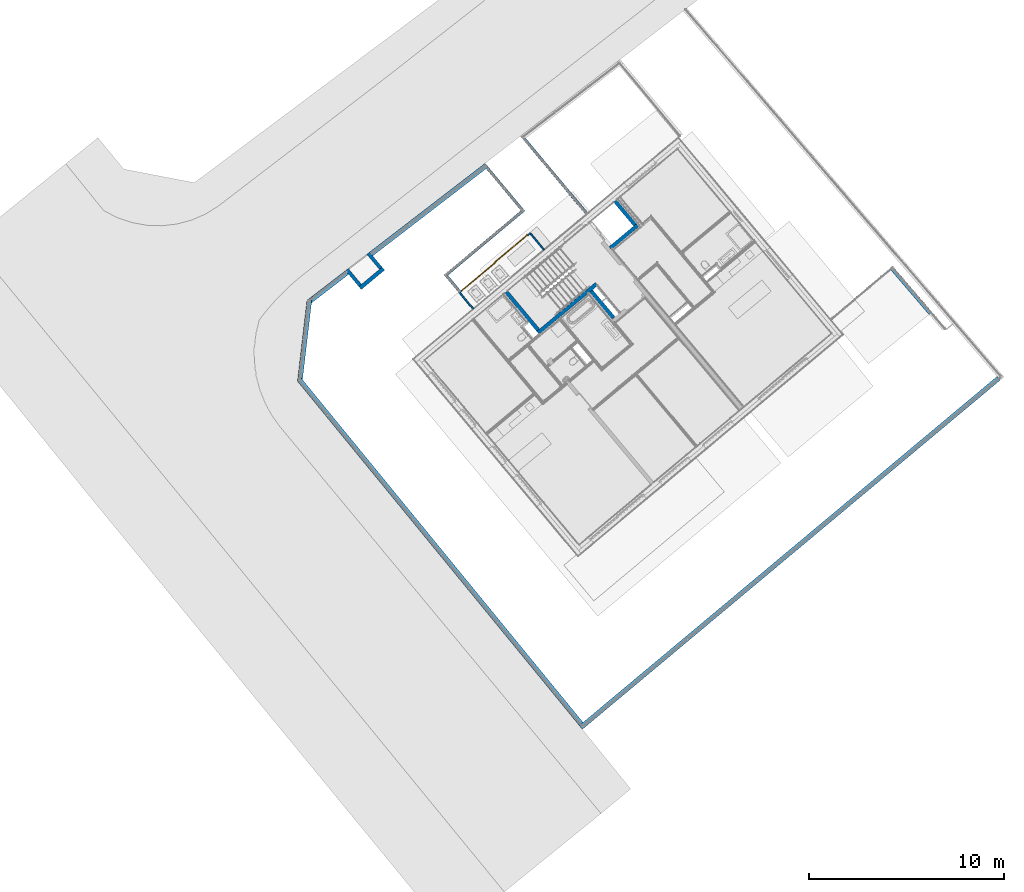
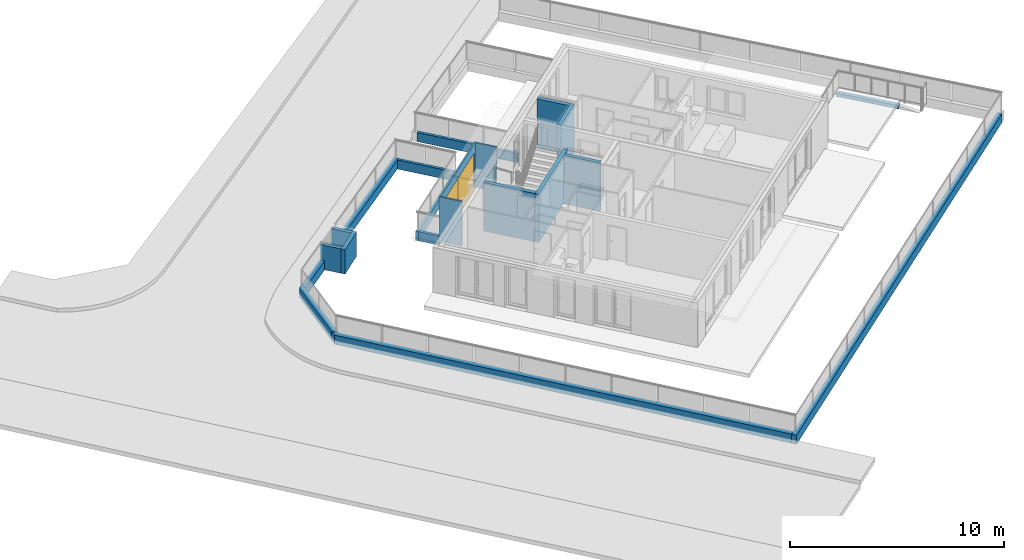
# One storey, part 10 of 75: 21 walls, 1 door, 1 opening.
"""IFC4 building model written with IfcOpenShell, lengths in metres."""

from ifc_helpers import new_model, entity, si_unit, converted_unit, derived_unit, direction, frame, origin_with_axes, place, context, subcontext, project, spatial, polygons, material, type_object, element, fill, save


model = new_model("IFC4")

# Units and contexts
model_context = context("Model", 3, precision=1e-05, world=origin_with_axes(), true_north=direction((0.0, 1.0)))
body_context = subcontext(model_context, "Body", "Model", "MODEL_VIEW")
ifc_project = project(units=[si_unit("LENGTHUNIT", "METRE"), si_unit("AREAUNIT", "SQUARE_METRE"), si_unit("VOLUMEUNIT", "CUBIC_METRE"), converted_unit("PLANEANGLEUNIT", "DEGREE", entity("IfcPlaneAngleMeasure", 0.0174532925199), si_unit("PLANEANGLEUNIT", "RADIAN"), dimensions=[0, 0, 0, 0, 0, 0, 0]), converted_unit("TIMEUNIT", "Year", entity("IfcTimeMeasure", 31556926.0), si_unit("TIMEUNIT", "SECOND"), dimensions=[0, 0, 1, 0, 0, 0, 0]), si_unit("MASSUNIT", "GRAM", prefix="KILO"), si_unit("THERMODYNAMICTEMPERATUREUNIT", "DEGREE_CELSIUS"), si_unit("LUMINOUSINTENSITYUNIT", "LUMEN"), si_unit("ENERGYUNIT", "JOULE", prefix="MEGA"), derived_unit("THERMALCONDUCTANCEUNIT", [(si_unit("POWERUNIT", "WATT"), 1), (si_unit("LENGTHUNIT", "METRE"), -1), (si_unit("THERMODYNAMICTEMPERATUREUNIT", "KELVIN"), -1)]), derived_unit("SPECIFICHEATCAPACITYUNIT", [(si_unit("ENERGYUNIT", "JOULE"), 1), (si_unit("MASSUNIT", "GRAM", prefix="KILO"), -1), (si_unit("THERMODYNAMICTEMPERATUREUNIT", "KELVIN"), -1)]), derived_unit("MASSDENSITYUNIT", [(si_unit("MASSUNIT", "GRAM", prefix="KILO"), 1), (si_unit("VOLUMEUNIT", "CUBIC_METRE"), -1)])], contexts=[model_context])

# Site, building, storey
site_placement = place(None, frame((-0.00153261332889, -0.00661245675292, 0.0), z_axis=(0.0, 0.0, 1.0), x_axis=(1.0, 0.0, 0.0)))
site = spatial("IfcSite", under=ifc_project, at=site_placement, Name="Gelände", CompositionType="ELEMENT")
building_placement = place(site_placement, origin_with_axes())
building = spatial("IfcBuilding", under=site, at=building_placement, Name="Gebäude", CompositionType="ELEMENT")
storey_placement = place(building_placement, frame((0.0, 0.0, -0.22), z_axis=(0.0, 0.0, 1.0), x_axis=(1.0, 0.0, 0.0)))
storey = spatial("IfcBuildingStorey", under=building, at=storey_placement, Name="EG", CompositionType="ELEMENT", Elevation=-0.22)

# Walls
ifc_material_1 = material(Name="Stahlbeton Wand")
wall_type_1 = type_object("IfcWallType", Name="Stahlbeton Wand 250", PredefinedType="NOTDEFINED")
wall_1_placement = place(storey_placement, frame((-14.1452322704, 22.0318984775, 0.0), z_axis=(0.0, 0.0, 1.0), x_axis=(0.792729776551, 0.609573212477, 0.0)))
element("IfcWall", 1, at=wall_1_placement, inside=storey, type_object=wall_type_1, material=ifc_material_1, Name="Wand-007", PredefinedType="NOTDEFINED", context=body_context, shape_type="Tessellation", body=[
    polygons([(2.69156692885, -0.25, 0.52), (2.68142353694, 0.0, 0.52), (0.348990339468, 0.0, 0.52), (0.105486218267, -0.25, 0.52), (2.69156692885, -0.25, 0.0), (2.68142353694, 0.0, 0.0), (0.348990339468, 0.0, 0.0), (0.105486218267, -0.25, 0.0)], [[[1, 2, 3, 4]], [[2, 1, 5, 6]], [[2, 6, 7, 3]], [[8, 4, 3, 7]], [[5, 1, 4, 8]], [[6, 5, 8, 7]]], closed=True),
])
wall_2_placement = place(storey_placement, frame((-14.6319901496, 17.8803365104, 0.0), z_axis=(0.0, 0.0, 1.0), x_axis=(0.116449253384, 0.993196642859, 0.0)))
element("IfcWall", 2, at=wall_2_placement, inside=storey, type_object=wall_type_1, material=ifc_material_1, Name="Wand-006", PredefinedType="NOTDEFINED", context=body_context, shape_type="Tessellation", body=[
    polygons([(4.42350412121, -0.25, 0.52), (4.18, 0.0, 0.52), (0.347570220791, 0.0, 0.52), (0.106105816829, -0.25, 0.52), (4.42350412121, -0.25, 0.0), (4.18, 0.0, 0.0), (0.347570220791, 0.0, 0.0), (0.106105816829, -0.25, 0.0)], [[[1, 2, 3, 4]], [[2, 1, 5, 6]], [[2, 6, 7, 3]], [[8, 4, 3, 7]], [[5, 1, 4, 8]], [[6, 5, 8, 7]]], closed=True),
])
wall_3_placement = place(storey_placement, frame((0.00153261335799, 0.00661245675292, 0.0), z_axis=(0.0, 0.0, 1.0), x_axis=(-0.633485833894, 0.773754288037, 0.0)))
element("IfcWall", 3, at=wall_3_placement, inside=storey, type_object=wall_type_1, material=ifc_material_1, Name="Wand-005", PredefinedType="NOTDEFINED", context=body_context, shape_type="Tessellation", body=[
    polygons([(23.3414644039, -0.25, 0.52), (23.0999999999, 0.0, 0.52), (0.250012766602, 0.0, 0.52), (0.252539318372, -0.25, 0.52), (23.3414644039, -0.25, 0.0), (23.0999999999, 0.0, 0.0), (0.250012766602, 0.0, 0.0), (0.252539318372, -0.25, 0.0)], [[[1, 2, 3, 4]], [[2, 1, 5, 6]], [[2, 6, 7, 3]], [[8, 4, 3, 7]], [[5, 1, 4, 8]], [[6, 5, 8, 7]]], closed=True),
])
wall_4_placement = place(storey_placement, frame((21.647771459, 18.0972025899, 0.0), z_axis=(0.0, 0.0, 1.0), x_axis=(-0.767312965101, -0.64127280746, 0.0)))
element("IfcWall", 4, at=wall_4_placement, inside=storey, type_object=wall_type_1, material=ifc_material_1, Name="Wand-004", PredefinedType="NOTDEFINED", context=body_context, shape_type="Tessellation", body=[
    polygons([(28.2079166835, -0.25, 0.52), (28.2104432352, 0.0, 0.52), (0.250023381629, 0.0, 0.52), (0.253442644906, -0.25, 0.52), (28.2079166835, -0.25, 0.0), (28.2104432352, 0.0, 0.0), (0.250023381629, 0.0, 0.0), (0.253442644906, -0.25, 0.0)], [[[1, 2, 3, 4]], [[2, 1, 5, 6]], [[2, 6, 7, 3]], [[8, 4, 3, 7]], [[5, 1, 4, 8]], [[6, 5, 8, 7]]], closed=True),
])
wall_5_placement = place(storey_placement, frame((-10.9252750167, 24.5078994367, 0.0), z_axis=(0.0, 0.0, 1.0), x_axis=(0.792729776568, 0.609573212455, 0.0)))
element("IfcWall", 5, at=wall_5_placement, inside=storey, type_object=wall_type_1, material=ifc_material_1, Name="Wand-008", PredefinedType="NOTDEFINED", context=body_context, shape_type="Tessellation", body=[
    polygons([(7.49776738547, -0.25, 0.52), (7.48762399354, 0.0, 0.52), (0.0, 0.0, 0.52), (0.0, -0.25, 0.52), (7.49776738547, -0.25, 0.0), (7.48762399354, 0.0, 0.0), (0.0, 0.0, 0.0), (0.0, -0.25, 0.0)], [[[1, 2, 3, 4]], [[2, 1, 5, 6]], [[2, 6, 7, 3]], [[8, 4, 3, 7]], [[5, 1, 4, 8]], [[6, 5, 8, 7]]], closed=True),
])
wall_type_2 = type_object("IfcWallType", Name="Stahlbeton Wand 200", PredefinedType="NOTDEFINED")
wall_6_placement = place(storey_placement, frame((0.665404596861, 22.952518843, 0.0), z_axis=(0.0, 0.0, 1.0), x_axis=(-0.767365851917, -0.641209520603, 0.0)))
element("IfcWall", 6, at=wall_6_placement, inside=storey, type_object=wall_type_2, material=ifc_material_1, Name="Wand-003", PredefinedType="NOTDEFINED", context=body_context, shape_type="Tessellation", body=[
    polygons([(3.92113772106, 0.2, 0.0), (3.92113772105, 0.0, 0.0), (0.0, 0.0, 0.0), (0.0, 0.2, 0.0), (3.92113772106, 0.2, 2.76), (3.92113772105, 0.0, 2.76), (0.0, 0.0, 2.76), (0.0, 0.2, 2.76)], [[[1, 2, 3, 4]], [[2, 1, 5, 6]], [[2, 6, 7, 3]], [[8, 4, 3, 7]], [[5, 1, 4, 8]], [[6, 5, 8, 7]]], closed=True),
])
wall_7_placement = place(storey_placement, frame((-2.19006942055, 20.5664899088, 0.0), z_axis=(0.0, 0.0, 1.0), x_axis=(-0.641209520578, 0.767365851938, 0.0)))
element("IfcWall", 7, at=wall_7_placement, inside=storey, type_object=wall_type_2, material=ifc_material_1, Name="Wand-003", PredefinedType="NOTDEFINED", context=body_context, shape_type="Tessellation", body=[
    polygons([(2.56037085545, 0.2, 0.0), (2.56037085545, 0.0, 0.0), (0.0, 0.0, 0.0), (0.0, 0.2, 0.0), (2.56037085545, 0.2, 2.76), (2.56037085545, 0.0, 2.76), (0.0, 0.0, 2.76), (0.0, 0.2, 2.76)], [[[1, 2, 3, 4]], [[2, 1, 5, 6]], [[2, 6, 7, 3]], [[8, 4, 3, 7]], [[5, 1, 4, 8]], [[6, 5, 8, 7]]], closed=True),
])
wall_8_placement = place(storey_placement, frame((1.65427756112, 20.9103763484, 0.0), z_axis=(0.0, 0.0, 1.0), x_axis=(-0.641209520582, 0.767365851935, 0.0)))
element("IfcWall", 8, at=wall_8_placement, inside=storey, type_object=wall_type_2, material=ifc_material_1, Name="Wand-003", PredefinedType="NOTDEFINED", context=body_context, shape_type="Tessellation", body=[
    polygons([(0.199905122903, -0.2, 2.76), (2.00114517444, -0.2, 2.76), (2.00114517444, 0.0, 2.76), (0.200000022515, 0.0, 2.76), (0.199905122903, -0.2, 0.0), (2.00114517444, -0.2, 0.0), (2.00114517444, 0.0, 0.0), (0.200000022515, 0.0, 0.0)], [[[1, 2, 3, 4]], [[5, 6, 2, 1]], [[7, 3, 2, 6]], [[4, 3, 7, 8]], [[8, 5, 1, 4]], [[8, 7, 6, 5]]], closed=True),
])
wall_9_placement = place(storey_placement, frame((1.36278827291, 24.785276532, 0.0), z_axis=(0.0, 0.0, 1.0), x_axis=(0.767365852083, 0.641209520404, 0.0)))
element("IfcWall", 9, at=wall_9_placement, inside=storey, type_object=wall_type_2, material=ifc_material_1, Name="Wand-003", PredefinedType="NOTDEFINED", context=body_context, shape_type="Tessellation", body=[
    polygons([(1.85049975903, -0.2, 2.76), (1.85049975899, 0.0, 2.76), (0.0, 0.0, 2.76), (-9.48995889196e-05, -0.2, 2.76), (1.85049975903, -0.2, 0.0), (1.85049975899, 0.0, 0.0), (0.0, 0.0, 0.0), (-9.48995889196e-05, -0.2, 0.0)], [[[1, 2, 3, 4]], [[2, 1, 5, 6]], [[2, 6, 7, 3]], [[8, 4, 3, 7]], [[5, 1, 4, 8]], [[6, 5, 8, 7]]], closed=True),
])
wall_10_placement = place(storey_placement, frame((2.62932542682, 25.8435926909, 0.0), z_axis=(0.0, 0.0, 1.0), x_axis=(-0.641209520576, 0.767365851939, 0.0)))
element("IfcWall", 10, at=wall_10_placement, inside=storey, type_object=wall_type_2, material=ifc_material_1, Name="Wand-003", PredefinedType="NOTDEFINED", context=body_context, shape_type="Tessellation", body=[
    polygons([(1.60114424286, -0.2, 2.76), (1.60114424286, 0.0, 2.76), (0.0, 0.0, 2.76), (0.0, -0.2, 2.76), (1.60114424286, -0.2, 0.0), (1.60114424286, 0.0, 0.0), (0.0, 0.0, 0.0), (0.0, -0.2, 0.0)], [[[1, 2, 3, 4]], [[2, 1, 5, 6]], [[2, 6, 7, 3]], [[8, 4, 3, 7]], [[5, 1, 4, 8]], [[6, 5, 8, 7]]], closed=True),
])
wall_11_placement = place(storey_placement, frame((15.9414206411, 23.7793304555, 0.0), z_axis=(0.0, 0.0, 1.0), x_axis=(0.650364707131, -0.759622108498, 0.0)))
element("IfcWall", 11, at=wall_11_placement, inside=storey, type_object=wall_type_2, material=ifc_material_1, Name="Wand-006", PredefinedType="NOTDEFINED", context=body_context, shape_type="Tessellation", body=[
    polygons([(0.0, -0.2, 0.2), (3.0977093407, -0.2, 0.2), (3.09736060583, 0.0, 0.2), (0.0, 0.0, 0.2), (0.0, -0.2, 0.0), (3.0977093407, -0.2, 0.0), (3.09736060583, 0.0, 0.0), (0.0, 0.0, 0.0)], [[[1, 2, 3, 4]], [[5, 6, 2, 1]], [[6, 7, 3, 2]], [[4, 3, 7, 8]], [[8, 5, 1, 4]], [[8, 7, 6, 5]]], closed=True),
])
wall_12_placement = place(storey_placement, frame((-11.3406081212, 22.8538550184, 0.0), z_axis=(0.0, 0.0, 1.0), x_axis=(0.767365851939, 0.641209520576, 0.0)))
element("IfcWall", 12, at=wall_12_placement, inside=storey, type_object=wall_type_2, material=ifc_material_1, Name="Wand-010", PredefinedType="NOTDEFINED", context=body_context, shape_type="Tessellation", body=[
    polygons([(1.37897978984, -0.2, 1.4), (1.3790332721, 0.0, 1.4), (-0.18, 0.0, 1.4), (-0.180000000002, -0.2, 1.4), (1.37897978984, -0.2, 0.0), (1.3790332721, 0.0, 0.0), (-0.18, 0.0, 0.0), (-0.180000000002, -0.2, 0.0)], [[[1, 2, 3, 4]], [[2, 1, 5, 6]], [[2, 6, 7, 3]], [[8, 4, 3, 7]], [[5, 1, 4, 8]], [[6, 5, 8, 7]]], closed=True),
])
wall_type_3 = type_object("IfcWallType", Name="Stahlbeton Wand 150", PredefinedType="NOTDEFINED")
wall_13_placement = place(storey_placement, frame((-3.15465317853, 26.6422386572, 0.0), z_axis=(0.0, 0.0, 1.0), x_axis=(-0.641209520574, 0.767365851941, 0.0)))
element("IfcWall", 13, at=wall_13_placement, inside=storey, type_object=wall_type_3, material=ifc_material_1, Name="Wand-008", PredefinedType="NOTDEFINED", context=body_context, shape_type="Tessellation", body=[
    polygons([(2.79102210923, -0.15, 0.52), (2.79710814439, 0.0, 0.52), (-0.150000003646, 0.0, 0.52), (-0.150033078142, -0.15, 0.52), (2.79102210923, -0.15, 0.0), (2.79710814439, 0.0, 0.0), (-0.150000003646, 0.0, 0.0), (-0.150033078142, -0.15, 0.0)], [[[1, 2, 3, 4]], [[2, 1, 5, 6]], [[2, 6, 7, 3]], [[8, 4, 3, 7]], [[5, 1, 4, 8]], [[6, 5, 8, 7]]], closed=True),
])
wall_14_placement = place(storey_placement, frame((-3.15465317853, 26.6422386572, 0.0), z_axis=(0.0, 0.0, 1.0), x_axis=(-0.767507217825, -0.641040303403, 0.0)))
element("IfcWall", 14, at=wall_14_placement, inside=storey, type_object=wall_type_3, material=ifc_material_1, Name="Wand-009", PredefinedType="NOTDEFINED", context=body_context, shape_type="Tessellation", body=[
    polygons([(-3.30744951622e-05, 0.15, 0.0), (5.15667008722, 0.15, 0.0), (5.15667008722, 0.0, 0.0), (0.0, 0.0, 0.0), (-3.30744951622e-05, 0.15, 0.52), (5.15667008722, 0.15, 0.52), (5.15667008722, 0.0, 0.52), (0.0, 0.0, 0.52)], [[[1, 2, 3, 4]], [[5, 6, 2, 1]], [[3, 2, 6, 7]], [[4, 3, 7, 8]], [[5, 1, 4, 8]], [[8, 7, 6, 5]]], closed=True),
])
wall_15_placement = place(storey_placement, frame((-7.01627864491, 23.2214792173, 0.0), z_axis=(0.0, 0.0, 1.0), x_axis=(0.641234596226, -0.767344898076, 0.0)))
element("IfcWall", 15, at=wall_15_placement, inside=storey, type_object=wall_type_3, material=ifc_material_1, Name="Wand-010", PredefinedType="NOTDEFINED", context=body_context, shape_type="Tessellation", body=[
    polygons([(1.01213200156, 0.15, 0.0), (1.01213200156, 0.0, 0.0), (0.0, 0.0, 0.0), (0.0, 0.15, 0.0), (1.01213200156, 0.15, 0.52), (1.01213200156, 0.0, 0.52), (0.0, 0.0, 0.52), (0.0, 0.15, 0.52)], [[[1, 2, 3, 4]], [[1, 5, 6, 2]], [[2, 6, 7, 3]], [[4, 3, 7, 8]], [[5, 1, 4, 8]], [[6, 5, 8, 7]]], closed=True),
])
wall_16_placement = place(storey_placement, frame((-3.18795489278, 30.4575473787, 0.0), z_axis=(0.0, 0.0, 1.0), x_axis=(0.641093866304, -0.767462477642, 0.0)))
element("IfcWall", 16, at=wall_16_placement, inside=storey, type_object=wall_type_3, material=ifc_material_1, Name="Wand-011", PredefinedType="NOTDEFINED", context=body_context, shape_type="Tessellation", body=[
    polygons([(0.25626755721, 0.15, 0.0), (5.25452000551, 0.15, 0.0), (5.25452000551, 0.0, 0.0), (0.250204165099, 0.0, 0.0), (0.25626755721, 0.15, 0.52), (5.25452000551, 0.15, 0.52), (5.25452000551, 0.0, 0.52), (0.250204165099, 0.0, 0.52)], [[[1, 2, 3, 4]], [[5, 6, 2, 1]], [[3, 2, 6, 7]], [[4, 3, 7, 8]], [[5, 1, 4, 8]], [[8, 7, 6, 5]]], closed=True),
])
wall_type_4 = type_object("IfcWallType", Name="Stahlbeton Wand 180", PredefinedType="NOTDEFINED")
wall_17_placement = place(storey_placement, frame((-12.0195879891, 23.6664224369, 0.0), z_axis=(0.0, 0.0, 1.0), x_axis=(0.64120952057, -0.767365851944, 0.0)))
element("IfcWall", 17, at=wall_17_placement, inside=storey, type_object=wall_type_4, material=ifc_material_1, Name="Wand-009", PredefinedType="NOTDEFINED", context=body_context, shape_type="Tessellation", body=[
    polygons([(0.250205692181, 0.0, 0.0), (0.250205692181, 0.0, 0.52), (0.0, 0.0, 0.52), (0.0, 0.0, 1.4), (1.05890484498, 0.0, 1.4), (1.05890484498, 0.0, 0.0), (0.24290245, -0.18, 0.52), (0.24290245, -0.18, 0.0), (0.0, -0.18, 0.52), (0.0, -0.18, 1.4), (1.05890484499, -0.18, 1.4), (1.05890484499, -0.18, 0.0)], [[[1, 2, 3, 4, 5, 6]], [[7, 2, 1, 8]], [[9, 3, 2, 7]], [[4, 3, 9, 10]], [[11, 5, 4, 10]], [[12, 6, 5, 11]], [[12, 8, 1, 6]], [[9, 7, 8, 12, 11, 10]]], closed=True),
])
wall_18_placement = place(storey_placement, frame((-10.4205109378, 23.6226865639, 0.0), z_axis=(0.0, 0.0, 1.0), x_axis=(-0.641004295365, 0.767537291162, 0.0)))
element("IfcWall", 18, at=wall_18_placement, inside=storey, type_object=wall_type_4, material=ifc_material_1, Name="Wand-011", PredefinedType="NOTDEFINED", context=body_context, shape_type="Tessellation", body=[
    polygons([(4.81340322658e-05, -0.18, 1.4), (1.00298983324, -0.18, 1.4), (1.00298983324, 0.0, 1.4), (0.0, 0.0, 1.4), (4.81340322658e-05, -0.18, 0.0), (1.00298983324, -0.18, 0.0), (1.00298983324, 0.0, 0.0), (0.0, 0.0, 0.0)], [[[1, 2, 3, 4]], [[5, 6, 2, 1]], [[3, 2, 6, 7]], [[4, 3, 7, 8]], [[5, 1, 4, 8]], [[8, 7, 6, 5]]], closed=True),
])
ifc_material_2 = material(Name="Aluminium")
wall_type_5 = type_object("IfcWallType", Name="Aluminium 80", PredefinedType="NOTDEFINED")
wall_19_placement = place(storey_placement, frame((-5.63342813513, 21.5666079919, 0.22), z_axis=(0.0, 0.0, 1.0), x_axis=(-0.641209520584, 0.767365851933, 0.0)))
element("IfcWall", 19, at=wall_19_placement, inside=storey, type_object=wall_type_5, material=ifc_material_2, Name="Wand-008", PredefinedType="NOTDEFINED", context=body_context, shape_type="Tessellation", body=[
    polygons([(0.0, -0.08, 0.0), (1.14445657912, -0.08, 0.0), (1.14445657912, -0.08, 0.3), (1.14445657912, -0.08, 2.54), (0.0, -0.08, 2.54), (0.0, 0.0, 0.0), (1.14445657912, 0.0, 0.0), (1.14445657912, 0.0, 0.3), (1.14445657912, 0.0, 2.54), (0.0, 0.0, 2.54)], [[[1, 2, 3, 4, 5]], [[1, 6, 7, 2]], [[2, 7, 8, 3]], [[3, 8, 9, 4]], [[10, 5, 4, 9]], [[6, 1, 5, 10]], [[6, 10, 9, 8, 7]]], closed=True),
])

# Wall, opening, door
wall_20_placement = place(storey_placement, frame((-6.36726458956, 22.4448248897, 0.22), z_axis=(0.0, 0.0, 1.0), x_axis=(0.767365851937, 0.641209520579, 0.0)))
wall_20 = element("IfcWall", 20, at=wall_20_placement, inside=storey, type_object=wall_type_5, material=ifc_material_2, Name="Wand-008", PredefinedType="NOTDEFINED", context=body_context, shape_type="Tessellation", body=[
    polygons([(0.190017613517, -0.08, 0.0), (0.190017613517, -0.08, 2.04), (4.6310176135, -0.08, 2.04), (4.6310176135, -0.08, 0.0), (4.81101761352, -0.08, 0.0), (4.81101761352, -0.08, 2.54), (0.0800000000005, -0.08, 2.54), (0.0800000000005, -0.08, 0.0), (0.190017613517, 0.0, 0.0), (0.190017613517, 0.0, 2.04), (4.6310176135, 0.0, 2.04), (4.6310176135, 0.0, 0.0), (4.81101761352, 0.0, 0.0), (4.81101761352, 0.0, 2.54), (0.08, 0.0, 2.54), (0.08, 0.0, 0.3), (0.08, 0.0, 0.0)], [[[1, 2, 3, 4, 5, 6, 7, 8]], [[2, 1, 9, 10]], [[3, 2, 10, 11]], [[4, 3, 11, 12]], [[4, 12, 13, 5]], [[14, 6, 5, 13]], [[15, 7, 6, 14]], [[15, 16, 17, 8, 7]], [[9, 1, 8, 17]], [[10, 9, 17, 16, 15, 14, 13, 12, 11]]], closed=True),
])
opening_placement = place(wall_20_placement, frame((2.41051761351, 0.0, -0.22), z_axis=(0.0, 0.0, 1.0), x_axis=(1.0, 0.0, 0.0)))
opening = element("IfcOpeningElement", 21, at=opening_placement, cuts=wall_20, Name="Tür-001", context=body_context, identifier="Reference", shape_type="Tessellation", body=[
    polygons([(-2.22049999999, -2.44822412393, 2.26), (-2.22049999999, -2.44822412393, 0.0), (2.22049999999, -2.44822412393, 0.0), (2.22049999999, -2.44822412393, 2.26), (-2.22049999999, 2.36822412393, 2.26), (-2.22049999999, 2.36822412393, 0.0), (2.22049999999, 2.36822412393, 0.0), (2.22049999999, 2.36822412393, 2.26)], [[[1, 2, 3, 4]], [[5, 6, 2, 1]], [[6, 7, 3, 2]], [[7, 8, 4, 3]], [[8, 5, 1, 4]], [[7, 6, 5, 8]]], closed=True),
])
door_type = type_object("IfcDoorType", Name="Ladentür 1-Fl 26", OperationType="SINGLE_SWING_RIGHT", PredefinedType="NOTDEFINED")
door_placement = place(opening_placement, frame((2.22049999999, 0.0, 0.0), z_axis=(0.0, 0.0, 1.0), x_axis=(-1.0, 0.0, 0.0)))
door = element("IfcDoor", 22, at=door_placement, inside=storey, type_object=door_type, Name="Tür-001", OverallHeight=2.26, OverallWidth=4.441, PredefinedType="NOTDEFINED", context=body_context, shape_type="Tessellation", body=[
    polygons([(0.037, 0.045, 1.08598076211), (0.0360621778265, 0.04675, 1.08901185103), (0.0360621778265, 0.03, 1.0935), (0.037, 0.03, 1.09), (0.037, 0.0559807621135, 1.075), (0.0360621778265, 0.0590118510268, 1.07675), (0.0335, 0.0480310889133, 1.09123076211), (0.0335, 0.03, 1.09606217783), (0.03, 0.03, 1.097), (0.0265, 0.03, 1.09606217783), (0.0239378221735, 0.03, 1.0935), (0.023, 0.03, 1.09), (0.0239378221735, 0.03, 1.0865), (0.0265, 0.03, 1.08393782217), (0.03, 0.03, 1.083), (0.0335, 0.03, 1.08393782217), (0.0360621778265, 0.03, 1.0865), (0.0360621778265, 0.04325, 1.0829496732), (0.037, 0.06, 1.06), (0.0360621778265, 0.0635, 1.06), (0.0335, 0.0612307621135, 1.07803108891), (0.0360621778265, 0.0529496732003, 1.07325), (0.03, 0.0485, 1.09204293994), (0.0265, 0.0480310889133, 1.09123076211), (0.0239378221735, 0.04675, 1.08901185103), (0.023, 0.045, 1.08598076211), (0.0239378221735, 0.04325, 1.0829496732), (0.0265, 0.0419689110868, 1.08073076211), (0.03, 0.0415, 1.07991858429), (0.0335, 0.0419689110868, 1.08073076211), (0.0360621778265, 0.0565, 1.06), (0.0335, 0.0539378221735, 1.06), (0.03, 0.053, 1.06), (0.0265, 0.0539378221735, 1.06), (0.0239378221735, 0.0565, 1.06), (0.023, 0.06, 1.06), (0.0239378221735, 0.0635, 1.06), (0.0265, 0.0660621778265, 1.06), (0.03, 0.067, 1.06), (0.0335, 0.0660621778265, 1.06), (0.03, 0.06204293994, 1.0785), (0.0335, 0.0507307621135, 1.07196891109), (0.0265, 0.0612307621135, 1.07803108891), (0.0239378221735, 0.0590118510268, 1.07675), (0.023, 0.0559807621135, 1.075), (0.0239378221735, 0.0529496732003, 1.07325), (0.0265, 0.0507307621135, 1.07196891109), (0.03, 0.049918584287, 1.0715)], [[[1, 2, 3, 4]], [[5, 6, 2, 1]], [[2, 7, 8, 3]], [[4, 3, 8, 9, 10, 11, 12, 13, 14, 15, 16, 17]], [[18, 1, 4, 17]], [[19, 20, 6, 5]], [[6, 21, 7, 2]], [[22, 5, 1, 18]], [[7, 23, 9, 8]], [[23, 24, 10, 9]], [[24, 25, 11, 10]], [[25, 26, 12, 11]], [[26, 27, 13, 12]], [[27, 28, 14, 13]], [[28, 29, 15, 14]], [[29, 30, 16, 15]], [[30, 18, 17, 16]], [[19, 31, 32, 33, 34, 35, 36, 37, 38, 39, 40, 20]], [[20, 40, 21, 6]], [[31, 19, 5, 22]], [[21, 41, 23, 7]], [[42, 22, 18, 30]], [[41, 43, 24, 23]], [[43, 44, 25, 24]], [[44, 45, 26, 25]], [[45, 46, 27, 26]], [[46, 47, 28, 27]], [[47, 48, 29, 28]], [[48, 42, 30, 29]], [[32, 31, 22, 42]], [[33, 32, 42, 48]], [[34, 33, 48, 47]], [[35, 34, 47, 46]], [[36, 35, 46, 45]], [[37, 36, 45, 44]], [[38, 37, 44, 43]], [[39, 38, 43, 41]], [[40, 39, 41, 21]]], closed=True),
    polygons([(0.023, 0.045, 1.01401923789), (0.0239378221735, 0.04675, 1.01098814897), (0.0239378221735, 0.03, 1.0065), (0.023, 0.03, 1.01), (0.023, 0.0559807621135, 1.025), (0.0239378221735, 0.0590118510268, 1.02325), (0.0265, 0.0480310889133, 1.00876923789), (0.0265, 0.03, 1.00393782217), (0.03, 0.03, 1.003), (0.0335, 0.03, 1.00393782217), (0.0360621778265, 0.03, 1.0065), (0.037, 0.03, 1.01), (0.0360621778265, 0.03, 1.0135), (0.0335, 0.03, 1.01606217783), (0.03, 0.03, 1.017), (0.0265, 0.03, 1.01606217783), (0.0239378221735, 0.03, 1.0135), (0.0239378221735, 0.04325, 1.0170503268), (0.023, 0.06, 1.04), (0.0239378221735, 0.0635, 1.04), (0.0265, 0.0612307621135, 1.02196891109), (0.0239378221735, 0.0529496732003, 1.02675), (0.03, 0.0485, 1.00795706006), (0.0335, 0.0480310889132, 1.00876923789), (0.0360621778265, 0.04675, 1.01098814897), (0.037, 0.045, 1.01401923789), (0.0360621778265, 0.04325, 1.0170503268), (0.0335, 0.0419689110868, 1.01926923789), (0.03, 0.0415, 1.02008141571), (0.0265, 0.0419689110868, 1.01926923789), (0.0239378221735, 0.0565, 1.04), (0.0265, 0.0539378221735, 1.04), (0.03, 0.053, 1.04), (0.0335, 0.0539378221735, 1.04), (0.0360621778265, 0.0565, 1.04), (0.037, 0.06, 1.04), (0.0360621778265, 0.0635, 1.04), (0.0335, 0.0660621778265, 1.04), (0.03, 0.067, 1.04), (0.0265, 0.0660621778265, 1.04), (0.03, 0.06204293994, 1.0215), (0.0265, 0.0507307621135, 1.02803108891), (0.0335, 0.0612307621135, 1.02196891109), (0.0360621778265, 0.0590118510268, 1.02325), (0.037, 0.0559807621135, 1.025), (0.0360621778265, 0.0529496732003, 1.02675), (0.0335, 0.0507307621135, 1.02803108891), (0.03, 0.049918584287, 1.0285)], [[[1, 2, 3, 4]], [[5, 6, 2, 1]], [[2, 7, 8, 3]], [[4, 3, 8, 9, 10, 11, 12, 13, 14, 15, 16, 17]], [[18, 1, 4, 17]], [[19, 20, 6, 5]], [[6, 21, 7, 2]], [[22, 5, 1, 18]], [[7, 23, 9, 8]], [[23, 24, 10, 9]], [[24, 25, 11, 10]], [[25, 26, 12, 11]], [[26, 27, 13, 12]], [[27, 28, 14, 13]], [[28, 29, 15, 14]], [[29, 30, 16, 15]], [[30, 18, 17, 16]], [[19, 31, 32, 33, 34, 35, 36, 37, 38, 39, 40, 20]], [[20, 40, 21, 6]], [[31, 19, 5, 22]], [[21, 41, 23, 7]], [[42, 22, 18, 30]], [[41, 43, 24, 23]], [[43, 44, 25, 24]], [[44, 45, 26, 25]], [[45, 46, 27, 26]], [[46, 47, 28, 27]], [[47, 48, 29, 28]], [[48, 42, 30, 29]], [[32, 31, 22, 42]], [[33, 32, 42, 48]], [[34, 33, 48, 47]], [[35, 34, 47, 46]], [[36, 35, 46, 45]], [[37, 36, 45, 44]], [[38, 37, 44, 43]], [[39, 38, 43, 41]], [[40, 39, 41, 21]]], closed=True),
    polygons([(0.037, 0.06, 1.04), (0.037, 0.06, 1.06), (0.0360621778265, 0.0565, 1.06), (0.0360621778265, 0.0565, 1.04), (0.0360621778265, 0.0635, 1.04), (0.0360621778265, 0.0635, 1.06), (0.0335, 0.0660621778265, 1.06), (0.03, 0.067, 1.06), (0.0265, 0.0660621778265, 1.06), (0.0239378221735, 0.0635, 1.06), (0.023, 0.06, 1.06), (0.0239378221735, 0.0565, 1.06), (0.0265, 0.0539378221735, 1.06), (0.03, 0.053, 1.06), (0.0335, 0.0539378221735, 1.06), (0.0335, 0.0539378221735, 1.04), (0.03, 0.053, 1.04), (0.0265, 0.0539378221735, 1.04), (0.0239378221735, 0.0565, 1.04), (0.023, 0.06, 1.04), (0.0239378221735, 0.0635, 1.04), (0.0265, 0.0660621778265, 1.04), (0.03, 0.067, 1.04), (0.0335, 0.0660621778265, 1.04)], [[[1, 2, 3, 4]], [[5, 6, 2, 1]], [[2, 6, 7, 8, 9, 10, 11, 12, 13, 14, 15, 3]], [[4, 3, 15, 16]], [[1, 4, 16, 17, 18, 19, 20, 21, 22, 23, 24, 5]], [[24, 7, 6, 5]], [[23, 8, 7, 24]], [[22, 9, 8, 23]], [[21, 10, 9, 22]], [[20, 11, 10, 21]], [[19, 12, 11, 20]], [[18, 13, 12, 19]], [[17, 14, 13, 18]], [[16, 15, 14, 17]]], closed=True),
    polygons([(0.037, -0.015, 1.08598076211), (0.037, 0.0, 1.09), (0.0360621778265, 0.0, 1.0935), (0.0360621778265, -0.01675, 1.08901185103), (0.0360621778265, -0.01325, 1.0829496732), (0.0360621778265, 0.0, 1.0865), (0.0335, 0.0, 1.08393782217), (0.03, 0.0, 1.083), (0.0265, 0.0, 1.08393782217), (0.0239378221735, 0.0, 1.0865), (0.023, 0.0, 1.09), (0.0239378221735, 0.0, 1.0935), (0.0265, 0.0, 1.09606217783), (0.03, 0.0, 1.097), (0.0335, 0.0, 1.09606217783), (0.0335, -0.0180310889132, 1.09123076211), (0.037, -0.0259807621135, 1.075), (0.0360621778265, -0.0290118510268, 1.07675), (0.0335, -0.0119689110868, 1.08073076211), (0.0360621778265, -0.0229496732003, 1.07325), (0.03, -0.0115, 1.07991858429), (0.0265, -0.0119689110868, 1.08073076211), (0.0239378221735, -0.01325, 1.0829496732), (0.023, -0.015, 1.08598076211), (0.0239378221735, -0.01675, 1.08901185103), (0.0265, -0.0180310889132, 1.09123076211), (0.03, -0.0185, 1.09204293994), (0.0335, -0.0312307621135, 1.07803108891), (0.037, -0.03, 1.06), (0.0360621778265, -0.0335, 1.06), (0.0335, -0.0207307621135, 1.07196891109), (0.0360621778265, -0.0265, 1.06), (0.03, -0.019918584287, 1.0715), (0.0265, -0.0207307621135, 1.07196891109), (0.0239378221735, -0.0229496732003, 1.07325), (0.023, -0.0259807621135, 1.075), (0.0239378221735, -0.0290118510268, 1.07675), (0.0265, -0.0312307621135, 1.07803108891), (0.03, -0.03204293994, 1.0785), (0.0335, -0.0360621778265, 1.06), (0.03, -0.037, 1.06), (0.0265, -0.0360621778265, 1.06), (0.0239378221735, -0.0335, 1.06), (0.023, -0.03, 1.06), (0.0239378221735, -0.0265, 1.06), (0.0265, -0.0239378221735, 1.06), (0.03, -0.023, 1.06), (0.0335, -0.0239378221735, 1.06)], [[[1, 2, 3, 4]], [[5, 6, 2, 1]], [[2, 6, 7, 8, 9, 10, 11, 12, 13, 14, 15, 3]], [[4, 3, 15, 16]], [[17, 1, 4, 18]], [[19, 7, 6, 5]], [[20, 5, 1, 17]], [[21, 8, 7, 19]], [[22, 9, 8, 21]], [[23, 10, 9, 22]], [[24, 11, 10, 23]], [[25, 12, 11, 24]], [[26, 13, 12, 25]], [[27, 14, 13, 26]], [[16, 15, 14, 27]], [[18, 4, 16, 28]], [[29, 17, 18, 30]], [[31, 19, 5, 20]], [[32, 20, 17, 29]], [[33, 21, 19, 31]], [[34, 22, 21, 33]], [[35, 23, 22, 34]], [[36, 24, 23, 35]], [[37, 25, 24, 36]], [[38, 26, 25, 37]], [[39, 27, 26, 38]], [[28, 16, 27, 39]], [[30, 18, 28, 40]], [[29, 30, 40, 41, 42, 43, 44, 45, 46, 47, 48, 32]], [[48, 31, 20, 32]], [[47, 33, 31, 48]], [[46, 34, 33, 47]], [[45, 35, 34, 46]], [[44, 36, 35, 45]], [[43, 37, 36, 44]], [[42, 38, 37, 43]], [[41, 39, 38, 42]], [[40, 28, 39, 41]]], closed=True),
    polygons([(0.023, -0.015, 1.01401923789), (0.023, 0.0, 1.01), (0.0239378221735, 0.0, 1.0065), (0.0239378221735, -0.01675, 1.01098814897), (0.0239378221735, -0.01325, 1.0170503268), (0.0239378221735, 0.0, 1.0135), (0.0265, 0.0, 1.01606217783), (0.03, 0.0, 1.017), (0.0335, 0.0, 1.01606217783), (0.0360621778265, 0.0, 1.0135), (0.037, 0.0, 1.01), (0.0360621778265, 0.0, 1.0065), (0.0335, 0.0, 1.00393782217), (0.03, 0.0, 1.003), (0.0265, 0.0, 1.00393782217), (0.0265, -0.0180310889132, 1.00876923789), (0.023, -0.0259807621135, 1.025), (0.0239378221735, -0.0290118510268, 1.02325), (0.0265, -0.0119689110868, 1.01926923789), (0.0239378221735, -0.0229496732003, 1.02675), (0.03, -0.0115, 1.02008141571), (0.0335, -0.0119689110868, 1.01926923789), (0.0360621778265, -0.01325, 1.0170503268), (0.037, -0.015, 1.01401923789), (0.0360621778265, -0.01675, 1.01098814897), (0.0335, -0.0180310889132, 1.00876923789), (0.03, -0.0185, 1.00795706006), (0.0265, -0.0312307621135, 1.02196891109), (0.023, -0.03, 1.04), (0.0239378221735, -0.0335, 1.04), (0.0265, -0.0207307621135, 1.02803108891), (0.0239378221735, -0.0265, 1.04), (0.03, -0.019918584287, 1.0285), (0.0335, -0.0207307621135, 1.02803108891), (0.0360621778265, -0.0229496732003, 1.02675), (0.037, -0.0259807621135, 1.025), (0.0360621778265, -0.0290118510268, 1.02325), (0.0335, -0.0312307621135, 1.02196891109), (0.03, -0.03204293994, 1.0215), (0.0265, -0.0360621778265, 1.04), (0.03, -0.037, 1.04), (0.0335, -0.0360621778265, 1.04), (0.0360621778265, -0.0335, 1.04), (0.037, -0.03, 1.04), (0.0360621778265, -0.0265, 1.04), (0.0335, -0.0239378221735, 1.04), (0.03, -0.023, 1.04), (0.0265, -0.0239378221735, 1.04)], [[[1, 2, 3, 4]], [[5, 6, 2, 1]], [[2, 6, 7, 8, 9, 10, 11, 12, 13, 14, 15, 3]], [[4, 3, 15, 16]], [[17, 1, 4, 18]], [[19, 7, 6, 5]], [[20, 5, 1, 17]], [[21, 8, 7, 19]], [[22, 9, 8, 21]], [[23, 10, 9, 22]], [[24, 11, 10, 23]], [[25, 12, 11, 24]], [[26, 13, 12, 25]], [[27, 14, 13, 26]], [[16, 15, 14, 27]], [[18, 4, 16, 28]], [[29, 17, 18, 30]], [[31, 19, 5, 20]], [[32, 20, 17, 29]], [[33, 21, 19, 31]], [[34, 22, 21, 33]], [[35, 23, 22, 34]], [[36, 24, 23, 35]], [[37, 25, 24, 36]], [[38, 26, 25, 37]], [[39, 27, 26, 38]], [[28, 16, 27, 39]], [[30, 18, 28, 40]], [[29, 30, 40, 41, 42, 43, 44, 45, 46, 47, 48, 32]], [[48, 31, 20, 32]], [[47, 33, 31, 48]], [[46, 34, 33, 47]], [[45, 35, 34, 46]], [[44, 36, 35, 45]], [[43, 37, 36, 44]], [[42, 38, 37, 43]], [[41, 39, 38, 42]], [[40, 28, 39, 41]]], closed=True),
    polygons([(0.037, -0.03, 1.04), (0.0360621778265, -0.0265, 1.04), (0.0360621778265, -0.0265, 1.06), (0.037, -0.03, 1.06), (0.0360621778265, -0.0335, 1.04), (0.0335, -0.0360621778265, 1.04), (0.03, -0.037, 1.04), (0.0265, -0.0360621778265, 1.04), (0.0239378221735, -0.0335, 1.04), (0.023, -0.03, 1.04), (0.0239378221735, -0.0265, 1.04), (0.0265, -0.0239378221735, 1.04), (0.03, -0.023, 1.04), (0.0335, -0.0239378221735, 1.04), (0.0335, -0.0239378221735, 1.06), (0.03, -0.023, 1.06), (0.0265, -0.0239378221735, 1.06), (0.0239378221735, -0.0265, 1.06), (0.023, -0.03, 1.06), (0.0239378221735, -0.0335, 1.06), (0.0265, -0.0360621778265, 1.06), (0.03, -0.037, 1.06), (0.0335, -0.0360621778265, 1.06), (0.0360621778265, -0.0335, 1.06)], [[[1, 2, 3, 4]], [[1, 5, 6, 7, 8, 9, 10, 11, 12, 13, 14, 2]], [[2, 14, 15, 3]], [[4, 3, 15, 16, 17, 18, 19, 20, 21, 22, 23, 24]], [[5, 1, 4, 24]], [[6, 5, 24, 23]], [[7, 6, 23, 22]], [[8, 7, 22, 21]], [[9, 8, 21, 20]], [[10, 9, 20, 19]], [[11, 10, 19, 18]], [[12, 11, 18, 17]], [[13, 12, 17, 16]], [[14, 13, 16, 15]]], closed=True),
    polygons([(0.0, 0.03, 0.0), (2.24549999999, 0.03, 0.0), (2.24549999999, 0.0, 0.0), (0.0, 0.0, 0.0), (0.0, 0.03, 2.26), (2.24549999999, 0.03, 2.26), (0.05, 0.03, 0.25), (2.19549999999, 0.03, 0.25), (2.19549999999, 0.03, 2.21), (0.05, 0.03, 2.21), (2.24549999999, 0.0, 2.26), (0.0, 0.0, 2.26), (0.05, 0.0, 0.25), (0.05, 0.0, 2.21), (2.19549999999, 0.0, 2.21), (2.19549999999, 0.0, 0.25)], [[[1, 2, 3, 4]], [[1, 5, 6, 2], [7, 8, 9, 10]], [[2, 6, 11, 3]], [[4, 3, 11, 12], [13, 14, 15, 16]], [[5, 1, 4, 12]], [[6, 5, 12, 11]], [[8, 7, 13, 16]], [[9, 8, 16, 15]], [[10, 9, 15, 14]], [[7, 10, 14, 13]]], closed=True),
    polygons([(0.05, 0.02, 0.25), (2.19549999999, 0.02, 0.25), (2.19549999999, 0.01, 0.25), (0.05, 0.01, 0.25), (0.05, 0.02, 2.21), (2.19549999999, 0.02, 2.21), (2.19549999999, 0.01, 2.21), (0.05, 0.01, 2.21)], [[[1, 2, 3, 4]], [[1, 5, 6, 2]], [[2, 6, 7, 3]], [[4, 3, 7, 8]], [[5, 1, 4, 8]], [[6, 5, 8, 7]]], closed=True),
    polygons([(2.19549999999, 0.06, 0.0), (4.44099999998, 0.06, 0.0), (4.44099999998, 0.03, 0.0), (2.19549999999, 0.03, 0.0), (2.19549999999, 0.06, 2.26), (4.44099999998, 0.06, 2.26), (2.24549999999, 0.06, 0.25), (4.39099999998, 0.06, 0.25), (4.39099999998, 0.06, 2.21), (2.24549999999, 0.06, 2.21), (4.44099999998, 0.03, 2.26), (2.19549999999, 0.03, 2.26), (2.24549999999, 0.03, 0.25), (2.24549999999, 0.03, 2.21), (4.39099999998, 0.03, 2.21), (4.39099999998, 0.03, 0.25)], [[[1, 2, 3, 4]], [[1, 5, 6, 2], [7, 8, 9, 10]], [[2, 6, 11, 3]], [[4, 3, 11, 12], [13, 14, 15, 16]], [[5, 1, 4, 12]], [[6, 5, 12, 11]], [[8, 7, 13, 16]], [[9, 8, 16, 15]], [[10, 9, 15, 14]], [[7, 10, 14, 13]]], closed=True),
    polygons([(2.24549999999, 0.05, 0.25), (4.39099999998, 0.05, 0.25), (4.39099999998, 0.04, 0.25), (2.24549999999, 0.04, 0.25), (2.24549999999, 0.05, 2.21), (4.39099999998, 0.05, 2.21), (4.39099999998, 0.04, 2.21), (2.24549999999, 0.04, 2.21)], [[[1, 2, 3, 4]], [[1, 5, 6, 2]], [[2, 6, 7, 3]], [[4, 3, 7, 8]], [[5, 1, 4, 8]], [[6, 5, 8, 7]]], closed=True),
])
fill(opening, door)

# Wall
wall_21_placement = place(storey_placement, frame((-2.67545395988, 25.5296951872, 0.22), z_axis=(0.0, 0.0, 1.0), x_axis=(0.641209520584, -0.767365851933, 0.0)))
element("IfcWall", 23, at=wall_21_placement, inside=storey, type_object=wall_type_5, material=ifc_material_2, Name="Wand-008", PredefinedType="NOTDEFINED", context=body_context, shape_type="Tessellation", body=[
    polygons([(1.1444565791, -0.08, 2.54), (1.1444565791, 0.0, 2.54), (0.08, 0.0, 2.54), (0.0799999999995, -0.08, 2.54), (1.1444565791, -0.08, 0.0), (1.1444565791, 0.0, 0.0), (0.08, 0.0, 0.0), (0.0799999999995, -0.08, 0.0)], [[[1, 2, 3, 4]], [[2, 1, 5, 6]], [[2, 6, 7, 3]], [[8, 4, 3, 7]], [[5, 1, 4, 8]], [[6, 5, 8, 7]]], closed=True),
])

save(model, "model.ifc")
